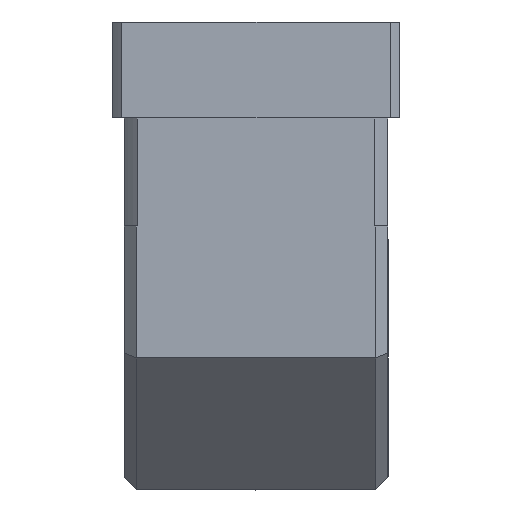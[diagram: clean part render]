
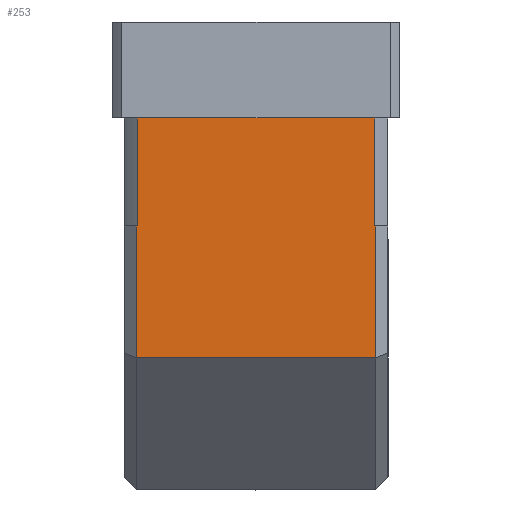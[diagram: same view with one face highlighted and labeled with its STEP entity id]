
A CAD part, left-side view. The second image highlights one B-rep face of the part: STEP entity #253.
In plain terms, the highlighted planar face has unit normal (-1, 0, 0).
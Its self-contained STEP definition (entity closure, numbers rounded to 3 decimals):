
#253=ADVANCED_FACE('',(#418),#366,.T.);
#366=PLANE('',#1993);
#418=FACE_OUTER_BOUND('',#496,.T.);
#496=EDGE_LOOP('',(#987,#988,#989,#990,#991,#992,#993,#994));
#668=LINE('',#2864,#805);
#692=LINE('',#2921,#829);
#693=LINE('',#2924,#830);
#694=LINE('',#2926,#831);
#695=LINE('',#2928,#832);
#696=LINE('',#2930,#833);
#697=LINE('',#2932,#834);
#698=LINE('',#2933,#835);
#805=VECTOR('',#2254,1.);
#829=VECTOR('',#2298,1.);
#830=VECTOR('',#2299,1.);
#831=VECTOR('',#2300,1.);
#832=VECTOR('',#2301,1.);
#833=VECTOR('',#2302,1.);
#834=VECTOR('',#2303,1.);
#835=VECTOR('',#2304,1.);
#987=ORIENTED_EDGE('',*,*,#1665,.F.);
#988=ORIENTED_EDGE('',*,*,#1666,.T.);
#989=ORIENTED_EDGE('',*,*,#1667,.T.);
#990=ORIENTED_EDGE('',*,*,#1668,.T.);
#991=ORIENTED_EDGE('',*,*,#1669,.F.);
#992=ORIENTED_EDGE('',*,*,#1670,.T.);
#993=ORIENTED_EDGE('',*,*,#1634,.T.);
#994=ORIENTED_EDGE('',*,*,#1671,.T.);
#1453=VERTEX_POINT('',#2863);
#1454=VERTEX_POINT('',#2865);
#1477=VERTEX_POINT('',#2922);
#1478=VERTEX_POINT('',#2923);
#1479=VERTEX_POINT('',#2925);
#1480=VERTEX_POINT('',#2927);
#1481=VERTEX_POINT('',#2929);
#1482=VERTEX_POINT('',#2931);
#1634=EDGE_CURVE('',#1454,#1453,#668,.T.);
#1665=EDGE_CURVE('',#1477,#1478,#692,.T.);
#1666=EDGE_CURVE('',#1477,#1479,#693,.T.);
#1667=EDGE_CURVE('',#1479,#1480,#694,.T.);
#1668=EDGE_CURVE('',#1480,#1481,#695,.T.);
#1669=EDGE_CURVE('',#1482,#1481,#696,.T.);
#1670=EDGE_CURVE('',#1482,#1454,#697,.T.);
#1671=EDGE_CURVE('',#1453,#1478,#698,.T.);
#1993=AXIS2_PLACEMENT_3D('',#2934,#2305,#2306);
#2254=DIRECTION('',(0.,1.,0.));
#2298=DIRECTION('',(0.,-1.,0.));
#2299=DIRECTION('',(0.,0.,-1.));
#2300=DIRECTION('',(0.,-1.,0.));
#2301=DIRECTION('',(0.,0.,1.));
#2302=DIRECTION('',(0.,-1.,0.));
#2303=DIRECTION('',(0.,0.,1.));
#2304=DIRECTION('',(0.,0.,-1.));
#2305=DIRECTION('',(-1.,0.,0.));
#2306=DIRECTION('',(0.,0.,1.));
#2863=CARTESIAN_POINT('',(-55.,49.508,155.));
#2864=CARTESIAN_POINT('',(-55.,-55.,155.));
#2865=CARTESIAN_POINT('',(-55.,-49.508,155.));
#2921=CARTESIAN_POINT('',(-55.,-55.,110.));
#2922=CARTESIAN_POINT('',(-55.,50.,110.));
#2923=CARTESIAN_POINT('',(-55.,49.508,110.));
#2924=CARTESIAN_POINT('',(-55.,50.,110.));
#2925=CARTESIAN_POINT('',(-55.,50.,55.));
#2926=CARTESIAN_POINT('',(-55.,-55.,55.));
#2927=CARTESIAN_POINT('',(-55.,-50.,55.));
#2928=CARTESIAN_POINT('',(-55.,-50.,110.));
#2929=CARTESIAN_POINT('',(-55.,-50.,110.));
#2930=CARTESIAN_POINT('',(-55.,-55.,110.));
#2931=CARTESIAN_POINT('',(-55.,-49.508,110.));
#2932=CARTESIAN_POINT('',(-55.,-49.508,110.));
#2933=CARTESIAN_POINT('',(-55.,49.508,110.));
#2934=CARTESIAN_POINT('',(-55.,-55.,110.));
